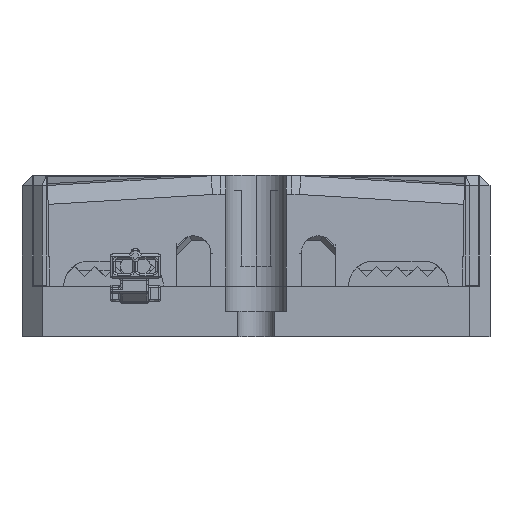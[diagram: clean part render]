
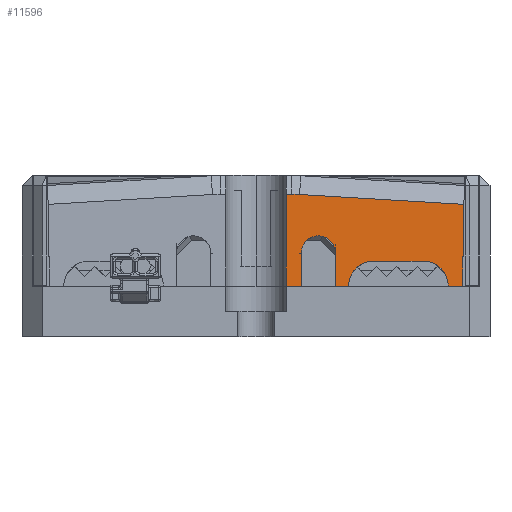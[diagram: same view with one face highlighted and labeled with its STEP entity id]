
A CAD part, left-side view. The second image highlights one B-rep face of the part: STEP entity #11596.
In plain terms, the highlighted planar face has unit normal (-0.999, 0, 0.035) as drawn and (0, -0.035, -0.999) by its records, which use the part's own axes.
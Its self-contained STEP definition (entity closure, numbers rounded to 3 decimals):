
#174 = VERTEX_POINT ( 'NONE', #24939 ) ;
#1163 = CARTESIAN_POINT ( 'NONE',  ( 3., 11., -10.825 ) ) ;
#1350 = DIRECTION ( 'NONE',  ( 1., 0., 0. ) ) ;
#1376 = DIRECTION ( 'NONE',  ( 1., 0., 0. ) ) ;
#1485 = CARTESIAN_POINT ( 'NONE',  ( -20.066, 0.428, -10.456 ) ) ;
#1737 = DIRECTION ( 'NONE',  ( 0.017, -0.999, 0.035 ) ) ;
#1742 = B_SPLINE_CURVE_WITH_KNOTS ( 'NONE', 3,
 ( #13660, #11776, #3038, #16210 ),
 .UNSPECIFIED., .F., .F.,
 ( 4, 4 ),
 ( 0., 1. ),
 .UNSPECIFIED. ) ;
#1924 = VECTOR ( 'NONE', #1350, 1000. ) ;
#2068 = PLANE ( 'NONE',  #3732 ) ;
#2225 = DIRECTION ( 'NONE',  ( 0., -0.999, 0.035 ) ) ;
#2325 =( BOUNDED_CURVE ( )  B_SPLINE_CURVE ( 3, ( #14018, #11569, #18419, #20289 ),
 .UNSPECIFIED., .F., .F. ) 
 B_SPLINE_CURVE_WITH_KNOTS ( ( 4, 4 ),
 ( 4.712, 7.854 ),
 .UNSPECIFIED. ) 
 CURVE ( )  GEOMETRIC_REPRESENTATION_ITEM ( )  RATIONAL_B_SPLINE_CURVE ( ( 1., 0.333, 0.333, 1. ) ) 
 REPRESENTATION_ITEM ( '' )  );
#2591 = LINE ( 'NONE', #17748, #22578 ) ;
#2808 = ORIENTED_EDGE ( 'NONE', *, *, #11524, .T. ) ;
#2822 = EDGE_CURVE ( 'NONE', #8621, #4333, #25552, .T. ) ;
#2860 = DIRECTION ( 'NONE',  ( 0., 0.999, -0.035 ) ) ;
#2902 = LINE ( 'NONE', #22932, #8442 ) ;
#3038 = CARTESIAN_POINT ( 'NONE',  ( 3.812, 1.865, -10.506 ) ) ;
#3432 = ORIENTED_EDGE ( 'NONE', *, *, #24474, .T. ) ;
#3579 = CARTESIAN_POINT ( 'NONE',  ( 7.9, 7.7, -10.71 ) ) ;
#3732 = AXIS2_PLACEMENT_3D ( 'NONE', #23693, #17249, #2225 ) ;
#4278 = CARTESIAN_POINT ( 'NONE',  ( 19.1, 9.536, -10.774 ) ) ;
#4333 = VERTEX_POINT ( 'NONE', #26732 ) ;
#4345 = VERTEX_POINT ( 'NONE', #11549 ) ;
#4361 = VECTOR ( 'NONE', #10661, 1000. ) ;
#5007 = LINE ( 'NONE', #5141, #23211 ) ;
#5141 = CARTESIAN_POINT ( 'NONE',  ( 3., 11.132, -10.83 ) ) ;
#5319 = VERTEX_POINT ( 'NONE', #24136 ) ;
#5894 = EDGE_CURVE ( 'NONE', #11497, #8621, #1742, .T. ) ;
#6510 = ORIENTED_EDGE ( 'NONE', *, *, #21826, .T. ) ;
#7015 = DIRECTION ( 'NONE',  ( 0., -0.999, 0.035 ) ) ;
#7069 = DIRECTION ( 'NONE',  ( 0., 0.999, -0.035 ) ) ;
#7225 = DIRECTION ( 'NONE',  ( 1., 0., 0. ) ) ;
#7254 = VERTEX_POINT ( 'NONE', #19981 ) ;
#7813 = ORIENTED_EDGE ( 'NONE', *, *, #19391, .T. ) ;
#8055 = VERTEX_POINT ( 'NONE', #28071 ) ;
#8442 = VECTOR ( 'NONE', #7225, 1000. ) ;
#8454 = CARTESIAN_POINT ( 'NONE',  ( 18.064, 8.5, -10.738 ) ) ;
#8621 = VERTEX_POINT ( 'NONE', #9960 ) ;
#8696 = ORIENTED_EDGE ( 'NONE', *, *, #26570, .T. ) ;
#9960 = CARTESIAN_POINT ( 'NONE',  ( 3.552, 1.865, -10.506 ) ) ;
#10315 = VECTOR ( 'NONE', #1376, 1000. ) ;
#10509 = CARTESIAN_POINT ( 'NONE',  ( 11.7, 8.5, -10.738 ) ) ;
#10515 = VERTEX_POINT ( 'NONE', #24218 ) ;
#10645 = CARTESIAN_POINT ( 'NONE',  ( 9.2, 11., -10.825 ) ) ;
#10661 = DIRECTION ( 'NONE',  ( -1., 0., 0. ) ) ;
#10912 = ORIENTED_EDGE ( 'NONE', *, *, #2822, .T. ) ;
#10931 = LINE ( 'NONE', #26095, #18166 ) ;
#11220 = VERTEX_POINT ( 'NONE', #15140 ) ;
#11224 =( BOUNDED_CURVE ( )  B_SPLINE_CURVE ( 3, ( #17318, #8454, #4278, #21323 ),
 .UNSPECIFIED., .F., .F. ) 
 B_SPLINE_CURVE_WITH_KNOTS ( ( 4, 4 ),
 ( 0., 1.571 ),
 .UNSPECIFIED. ) 
 CURVE ( )  GEOMETRIC_REPRESENTATION_ITEM ( )  RATIONAL_B_SPLINE_CURVE ( ( 1., 0.805, 0.805, 1. ) ) 
 REPRESENTATION_ITEM ( '' )  );
#11497 = VERTEX_POINT ( 'NONE', #27698 ) ;
#11516 = EDGE_CURVE ( 'NONE', #15441, #11220, #18541, .T. ) ;
#11524 = EDGE_CURVE ( 'NONE', #174, #11497, #12382, .T. ) ;
#11549 = CARTESIAN_POINT ( 'NONE',  ( 20.516, 11., -10.825 ) ) ;
#11569 = CARTESIAN_POINT ( 'NONE',  ( 4.5, 4.3, -10.591 ) ) ;
#11596 = ADVANCED_FACE ( 'NONE', ( #23829 ), #2068, .F. ) ;
#11776 = CARTESIAN_POINT ( 'NONE',  ( 4.072, 1.873, -10.507 ) ) ;
#12382 = LINE ( 'NONE', #1485, #17462 ) ;
#12412 = CARTESIAN_POINT ( 'NONE',  ( 4.5, 7.7, -10.71 ) ) ;
#12682 = EDGE_CURVE ( 'NONE', #22794, #5319, #10931, .T. ) ;
#12806 = EDGE_CURVE ( 'NONE', #8055, #18759, #2902, .T. ) ;
#13062 =( BOUNDED_CURVE ( )  B_SPLINE_CURVE ( 3, ( #10645, #14680, #23688, #10509 ),
 .UNSPECIFIED., .F., .F. ) 
 B_SPLINE_CURVE_WITH_KNOTS ( ( 4, 4 ),
 ( 4.712, 6.283 ),
 .UNSPECIFIED. ) 
 CURVE ( )  GEOMETRIC_REPRESENTATION_ITEM ( )  RATIONAL_B_SPLINE_CURVE ( ( 1., 0.805, 0.805, 1. ) ) 
 REPRESENTATION_ITEM ( '' )  );
#13660 = CARTESIAN_POINT ( 'NONE',  ( 4.332, 1.888, -10.507 ) ) ;
#13698 = EDGE_CURVE ( 'NONE', #5319, #7254, #16568, .T. ) ;
#14018 = CARTESIAN_POINT ( 'NONE',  ( 4.5, 7.7, -10.71 ) ) ;
#14034 = VECTOR ( 'NONE', #1737, 1000. ) ;
#14283 = ORIENTED_EDGE ( 'NONE', *, *, #18919, .T. ) ;
#14392 = DIRECTION ( 'NONE',  ( -0.998, -0.06, 0.002 ) ) ;
#14680 = CARTESIAN_POINT ( 'NONE',  ( 9.2, 9.536, -10.774 ) ) ;
#14841 = CARTESIAN_POINT ( 'NONE',  ( -20.708, 1.865, -10.506 ) ) ;
#15140 = CARTESIAN_POINT ( 'NONE',  ( 4.5, 11., -10.825 ) ) ;
#15441 = VERTEX_POINT ( 'NONE', #1163 ) ;
#16210 = CARTESIAN_POINT ( 'NONE',  ( 3.552, 1.865, -10.506 ) ) ;
#16568 = LINE ( 'NONE', #25283, #10315 ) ;
#16780 = LINE ( 'NONE', #19195, #14034 ) ;
#16944 = VECTOR ( 'NONE', #21604, 1000. ) ;
#17249 = DIRECTION ( 'NONE',  ( 0., 0.035, 0.999 ) ) ;
#17318 = CARTESIAN_POINT ( 'NONE',  ( 16.6, 8.5, -10.738 ) ) ;
#17462 = VECTOR ( 'NONE', #14392, 1000. ) ;
#17651 = EDGE_CURVE ( 'NONE', #18759, #10515, #11224, .T. ) ;
#17748 = CARTESIAN_POINT ( 'NONE',  ( 4.5, 11.132, -10.83 ) ) ;
#17963 = ORIENTED_EDGE ( 'NONE', *, *, #12682, .T. ) ;
#18166 = VECTOR ( 'NONE', #7069, 1000. ) ;
#18303 = ORIENTED_EDGE ( 'NONE', *, *, #5894, .T. ) ;
#18419 = CARTESIAN_POINT ( 'NONE',  ( 7.9, 4.3, -10.591 ) ) ;
#18541 = LINE ( 'NONE', #20959, #1924 ) ;
#18609 = ORIENTED_EDGE ( 'NONE', *, *, #17651, .T. ) ;
#18759 = VERTEX_POINT ( 'NONE', #20937 ) ;
#18919 = EDGE_CURVE ( 'NONE', #11220, #25649, #2591, .T. ) ;
#19195 = CARTESIAN_POINT ( 'NONE',  ( 20.516, 11., -10.825 ) ) ;
#19391 = EDGE_CURVE ( 'NONE', #7254, #8055, #13062, .T. ) ;
#19788 = EDGE_LOOP ( 'NONE', ( #18303, #10912, #20588, #24981, #14283, #3432, #17963, #21101, #7813, #26396, #18609, #8696, #6510, #2808 ) ) ;
#19981 = CARTESIAN_POINT ( 'NONE',  ( 9.2, 11., -10.825 ) ) ;
#20289 = CARTESIAN_POINT ( 'NONE',  ( 7.9, 7.7, -10.71 ) ) ;
#20588 = ORIENTED_EDGE ( 'NONE', *, *, #23028, .T. ) ;
#20937 = CARTESIAN_POINT ( 'NONE',  ( 16.6, 8.5, -10.738 ) ) ;
#20959 = CARTESIAN_POINT ( 'NONE',  ( -20.516, 11., -10.825 ) ) ;
#21101 = ORIENTED_EDGE ( 'NONE', *, *, #13698, .T. ) ;
#21323 = CARTESIAN_POINT ( 'NONE',  ( 19.1, 11., -10.825 ) ) ;
#21604 = DIRECTION ( 'NONE',  ( 1., 0., 0. ) ) ;
#21826 = EDGE_CURVE ( 'NONE', #4345, #174, #16780, .T. ) ;
#22578 = VECTOR ( 'NONE', #7015, 1000. ) ;
#22794 = VERTEX_POINT ( 'NONE', #3579 ) ;
#22932 = CARTESIAN_POINT ( 'NONE',  ( -20.708, 8.5, -10.738 ) ) ;
#23028 = EDGE_CURVE ( 'NONE', #4333, #15441, #5007, .T. ) ;
#23211 = VECTOR ( 'NONE', #2860, 1000. ) ;
#23688 = CARTESIAN_POINT ( 'NONE',  ( 10.236, 8.5, -10.738 ) ) ;
#23693 = CARTESIAN_POINT ( 'NONE',  ( -20.708, 11.132, -10.83 ) ) ;
#23770 = LINE ( 'NONE', #26344, #16944 ) ;
#23829 = FACE_OUTER_BOUND ( 'NONE', #19788, .T. ) ;
#24136 = CARTESIAN_POINT ( 'NONE',  ( 7.9, 11., -10.825 ) ) ;
#24218 = CARTESIAN_POINT ( 'NONE',  ( 19.1, 11., -10.825 ) ) ;
#24474 = EDGE_CURVE ( 'NONE', #25649, #22794, #2325, .T. ) ;
#24939 = CARTESIAN_POINT ( 'NONE',  ( 20.658, 2.865, -10.541 ) ) ;
#24981 = ORIENTED_EDGE ( 'NONE', *, *, #11516, .T. ) ;
#25283 = CARTESIAN_POINT ( 'NONE',  ( -20.516, 11., -10.825 ) ) ;
#25552 = LINE ( 'NONE', #14841, #4361 ) ;
#25649 = VERTEX_POINT ( 'NONE', #12412 ) ;
#26095 = CARTESIAN_POINT ( 'NONE',  ( 7.9, 11.132, -10.83 ) ) ;
#26344 = CARTESIAN_POINT ( 'NONE',  ( -20.516, 11., -10.825 ) ) ;
#26396 = ORIENTED_EDGE ( 'NONE', *, *, #12806, .T. ) ;
#26570 = EDGE_CURVE ( 'NONE', #10515, #4345, #23770, .T. ) ;
#26732 = CARTESIAN_POINT ( 'NONE',  ( 3., 1.865, -10.506 ) ) ;
#27698 = CARTESIAN_POINT ( 'NONE',  ( 4.332, 1.888, -10.507 ) ) ;
#28071 = CARTESIAN_POINT ( 'NONE',  ( 11.7, 8.5, -10.738 ) ) ;
